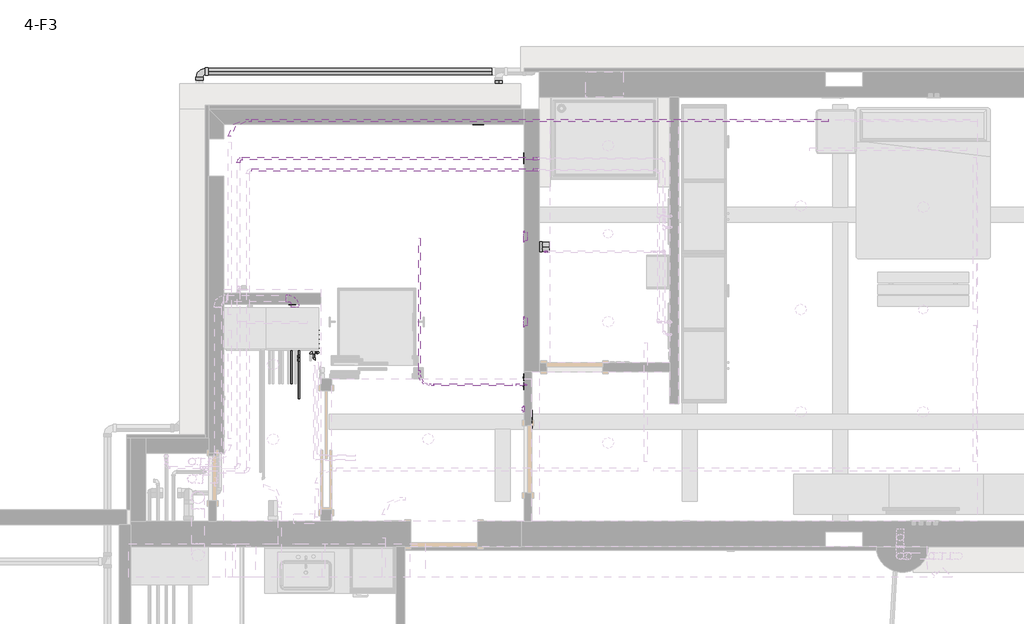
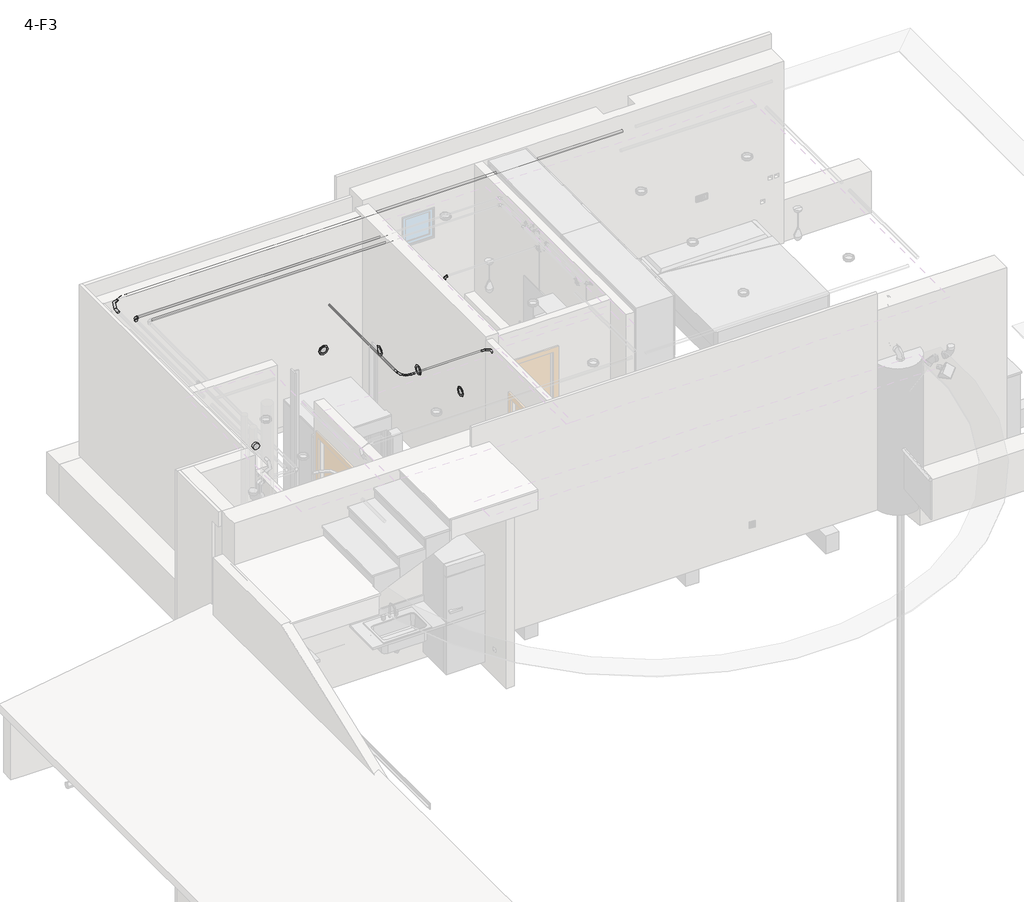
# One storey, part 9 of 11: 27 pipe fittings, 20 pipe segments, 5 switching devices, 4 cable carrier segments, 4 light fixtures, 3 cable carrier fittings, 2 proxies.
"""IFC4 building model written with IfcOpenShell, lengths in millimetres."""

from ifc_helpers import new_model, si_unit, point, frame, frame_2d, origin, place, context, project, spatial, circle_curve, trimmed, segment, composite_curve, outline, extrude, transform, mapped, element, save
from components import mechanical_equipment_c57d0791, wall_mounted_socket_ups_wall_mounted_socket_ups_4524048d, m_conduit_elbow_steel_standard_79cfaf55, m_conduit_elbow_steel_standard_5c2c710b, m_conduit_elbow_steel_standard_af66ae09, m_recessed_lamp_round_led_e6f06c98, m_recessed_lamp_round_led_ae0475c0, m_bend_pvc_sch_40_dwv_standard_1fb0f857, m_bend_pvc_sch_40_dwv_standard_a4b99d37, m_bend_pvc_sch_40_dwv_standard_b153bf5a, m_bend_pvc_sch_40_dwv_standard_42e46e6b, m_bend_pvc_sch_40_dwv_standard_f9b5f7f8, m_bend_pvc_sch_40_dwv_standard_450cce6e, m_elbow_welded_generic_standard_d2a14586, m_elbow_welded_generic_standard_c3fc6815, m_elbow_welded_generic_standard_7d9b37db, m_elbow_welded_generic_standard_439a4a1b, m_elbow_welded_generic_standard_505a3430, m_tee_reducing_sanitary_pvc_sch_40_dwv_standard_0d22577e, switching_device_8f59fbb7, switching_device_ab05ab5c

model = new_model("IFC4")

# Units and contexts
model_context = context("Model", 3, world=origin())
ifc_project = project(units=[si_unit("LENGTHUNIT", "METRE", prefix="MILLI")], contexts=[model_context])

# Site, building, storey
site = spatial("IfcSite", under=ifc_project)
building = spatial("IfcBuilding", under=site)
storey = spatial("IfcBuildingStorey", under=building, Name="4-F3", Elevation=9900.0)

# Proxies
placement = place(None, origin())
mechanical_equipment_shape = mechanical_equipment_c57d0791(model_context)
element("IfcBuildingElementProxy", 1, Name="HC_Control Unit_MEPcontent_ABB_ClimaEco Sensors_HVAC-control element_INT-EN : SAF-A1.0.1-24", ObjectType="HC_Control Unit_MEPcontent_ABB_ClimaEco Sensors_HVAC-control element_INT-EN : SAF-A1.0.1-24", at=placement, inside=storey, context=model_context, shape_type="MappedRepresentation", body=[
    mapped(mechanical_equipment_shape, transform((-827.4765921, 4679.8354313, 11500.0), x_axis=(0.0, -1.0, 0.0), y_axis=(0.0, 0.0, 1.0), z_axis=(-1.0, 0.0, 0.0))),
])
wall_mounted_socket_ups_wall_mounted_socket_ups_shape = wall_mounted_socket_ups_wall_mounted_socket_ups_4524048d(model_context)
element("IfcBuildingElementProxy", 2, Name="WALL MOUNTED SOCKET : WALL MOUNTED SOCKET", ObjectType="WALL MOUNTED SOCKET : WALL MOUNTED SOCKET", at=placement, inside=storey, context=model_context, shape_type="MappedRepresentation", body=[
    mapped(wall_mounted_socket_ups_wall_mounted_socket_ups_shape, transform((-3937.4765921, 6084.4560655, 10350.0), x_axis=(1.0, 0.0, 0.0), y_axis=(0.0, 0.0, 1.0), z_axis=(0.0, -1.0, 0.0))),
])

# Cable carrier fittings
m_conduit_elbow_steel_standard_shape = m_conduit_elbow_steel_standard_79cfaf55(model_context)
element("IfcCableCarrierFitting", 3, ObjectType="M_Conduit Elbow - Steel : Standard", at=placement, inside=storey, context=model_context, shape_type="MappedRepresentation", body=[
    mapped(m_conduit_elbow_steel_standard_shape, transform((-4777.4765921, 8549.2572999, 12880.825), x_axis=(-1.0, 0.0, 0.0), y_axis=(0.0, -1.0, 0.0), z_axis=(0.0, 0.0, 1.0))),
])
m_conduit_elbow_steel_standard_2_shape = m_conduit_elbow_steel_standard_5c2c710b(model_context)
element("IfcCableCarrierFitting", 4, ObjectType="M_Conduit Elbow - Steel : Standard", at=placement, inside=storey, context=model_context, shape_type="MappedRepresentation", body=[
    mapped(m_conduit_elbow_steel_standard_2_shape, transform((-802.4765921, 5004.4560655, 12888.29), x_axis=(0.0, 0.0, 1.0), y_axis=(-0.9999999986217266, -5.250282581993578e-05, 0.0), z_axis=(5.250282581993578e-05, -0.9999999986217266, 0.0))),
])
m_conduit_elbow_steel_standard_3_shape = m_conduit_elbow_steel_standard_af66ae09(model_context)
element("IfcCableCarrierFitting", 5, ObjectType="M_Conduit Elbow - Steel : Standard", at=placement, inside=storey, context=model_context, shape_type="MappedRepresentation", body=[
    mapped(m_conduit_elbow_steel_standard_3_shape, transform((-2232.4849991, 5004.3699604, 12888.29), x_axis=(-3.90051693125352e-06, -0.9999999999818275, -4.5968376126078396e-06), y_axis=(0.9999999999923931, -3.900516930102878e-06, -2.592770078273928e-10), z_axis=(2.413469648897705e-10, -4.596837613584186e-06, 0.9999999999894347))),
])

# Cable carrier segments
element("IfcCableCarrierSegment", 6, ObjectType="Low Current", at=placement, inside=storey, context=model_context, shape_type="SweptSolid", body=[
    extrude(outline(composite_curve([segment(trimmed(circle_curve(frame_2d((8549.2572999, 12880.825)), 19.175), [point((8568.4322999, 12880.825))], [point((8549.2572999, 12861.65))], False, "CARTESIAN"), True, "CONTINUOUS"), segment(trimmed(circle_curve(frame_2d((8549.2572999, 12880.825)), 19.175), [point((8549.2572999, 12861.65))], [point((8530.0822999, 12880.825))], False, "CARTESIAN"), True, "CONTINUOUS"), segment(trimmed(circle_curve(frame_2d((8549.2572999, 12880.825)), 19.175), [point((8530.0822999, 12880.825))], [point((8549.2572999, 12900.0))], False, "CARTESIAN"), True, "CONTINUOUS"), segment(trimmed(circle_curve(frame_2d((8549.2572999, 12880.825)), 19.175), [point((8549.2572999, 12900.0))], [point((8568.4322999, 12880.825))], False, "CARTESIAN"), True, "CONTINUOUS")], self_intersect=False)), frame((-4488.5515921, 0.0, 0.0), z_axis=(1.0, 0.0, 0.0), x_axis=(0.0, 1.0, 0.0)), (0.0, 0.0, 1.0), 7741.2520411),
])
element("IfcCableCarrierSegment", 7, ObjectType="Low Current", at=placement, inside=storey, context=model_context, shape_type="SweptSolid", body=[
    extrude(outline(composite_curve([segment(trimmed(circle_curve(frame_2d((0.0, -11.71)), 11.71), [point((-11.71, -11.71))], [point((0.0, 0.0))], False, "CARTESIAN"), True, "CONTINUOUS"), segment(trimmed(circle_curve(frame_2d((0.0, -11.71)), 11.71), [point((0.0, 0.0))], [point((11.71, -11.71))], False, "CARTESIAN"), True, "CONTINUOUS"), segment(trimmed(circle_curve(frame_2d((0.0, -11.71)), 11.71), [point((11.71, -11.71))], [point((0.0, -23.42))], False, "CARTESIAN"), True, "CONTINUOUS"), segment(trimmed(circle_curve(frame_2d((0.0, -11.71)), 11.71), [point((0.0, -23.42))], [point((-11.71, -11.71))], False, "CARTESIAN"), True, "CONTINUOUS")], self_intersect=False)), frame((-2043.5650673, 5004.3798792, 12876.58), z_axis=(0.9999999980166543, 6.298167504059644e-05, 0.0), x_axis=(6.298167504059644e-05, -0.9999999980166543, 0.0)), (0.0, 0.0, 1.0), 1052.1759775),
])
element("IfcCableCarrierSegment", 8, ObjectType="Low Current", at=placement, inside=storey, context=model_context, shape_type="SweptSolid", body=[
    extrude(outline(composite_curve([segment(trimmed(circle_curve(frame_2d((0.0, -11.71)), 11.71), [point((0.0, 0.0))], [point((11.71, -11.71))], False, "CARTESIAN"), True, "CONTINUOUS"), segment(trimmed(circle_curve(frame_2d((0.0, -11.71)), 11.71), [point((11.71, -11.71))], [point((0.0, -23.42))], False, "CARTESIAN"), True, "CONTINUOUS"), segment(trimmed(circle_curve(frame_2d((0.0, -11.71)), 11.71), [point((0.0, -23.42))], [point((-11.71, -11.71))], False, "CARTESIAN"), True, "CONTINUOUS"), segment(trimmed(circle_curve(frame_2d((0.0, -11.71)), 11.71), [point((-11.71, -11.71))], [point((0.0, 0.0))], False, "CARTESIAN"), True, "CONTINUOUS")], self_intersect=False)), frame((-2244.1942622, 5193.2899381, 12888.2908684), z_axis=(3.900516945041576e-06, 0.9999999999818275, 4.59683761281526e-06), x_axis=(1.7929657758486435e-11, 4.596837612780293e-06, -0.9999999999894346)), (0.0, 0.0, 1.0), 1777.4970577),
])
element("IfcCableCarrierSegment", 9, ObjectType="Low Current", at=placement, inside=storey, context=model_context, shape_type="SweptSolid", body=[
    extrude(outline(composite_curve([segment(trimmed(circle_curve(frame_2d((-802.4765921, 5004.4560655)), 11.71), [point((-790.7665921, 5004.4560655))], [point((-802.4765921, 4992.7460655))], False, "CARTESIAN"), True, "CONTINUOUS"), segment(trimmed(circle_curve(frame_2d((-802.4765921, 5004.4560655)), 11.71), [point((-802.4765921, 4992.7460655))], [point((-814.1865921, 5004.4560655))], False, "CARTESIAN"), True, "CONTINUOUS"), segment(trimmed(circle_curve(frame_2d((-802.4765921, 5004.4560655)), 11.71), [point((-814.1865921, 5004.4560655))], [point((-802.4765921, 5016.1660655))], False, "CARTESIAN"), True, "CONTINUOUS"), segment(trimmed(circle_curve(frame_2d((-802.4765921, 5004.4560655)), 11.71), [point((-802.4765921, 5016.1660655))], [point((-790.7665921, 5004.4560655))], False, "CARTESIAN"), True, "CONTINUOUS")], self_intersect=False)), frame((0.0, 0.0, 11484.5), z_axis=(0.0, 0.0, 1.0), x_axis=(1.0, 0.0, 0.0)), (0.0, 0.0, 1.0), 1214.8775),
])

# Light fixtures
m_recessed_lamp_round_led_shape = m_recessed_lamp_round_led_e6f06c98(model_context)
element("IfcLightFixture", 10, ObjectType="M_Recessed Lamp - Round - LED : 100mm Trimless Downlight", at=placement, inside=storey, context=model_context, shape_type="MappedRepresentation", body=[
    mapped(m_recessed_lamp_round_led_shape, transform((-827.4765921, 6993.0590764, 11314.7368421), x_axis=(0.0, -1.0, 0.0), y_axis=(0.0, 0.0, 1.0), z_axis=(-1.0, 0.0, 0.0))),
])
element("IfcLightFixture", 11, ObjectType="M_Recessed Lamp - Round - LED : 100mm Trimless Downlight", at=placement, inside=storey, context=model_context, shape_type="MappedRepresentation", body=[
    mapped(m_recessed_lamp_round_led_shape, transform((-827.4765921, 5850.6530281, 11650.0), x_axis=(0.0, -1.0, 0.0), y_axis=(0.0, 0.0, 1.0), z_axis=(-1.0, 0.0, 0.0))),
])
element("IfcLightFixture", 12, ObjectType="M_Recessed Lamp - Round - LED : 100mm Trimless Downlight", at=placement, inside=storey, context=model_context, shape_type="MappedRepresentation", body=[
    mapped(m_recessed_lamp_round_led_shape, transform((-1442.4765921, 8501.6620874, 10944.7368421), x_axis=(1.0, 0.0, 0.0), y_axis=(0.0, 0.0, 1.0), z_axis=(0.0, -1.0, 0.0))),
])
m_recessed_lamp_round_led_2_shape = m_recessed_lamp_round_led_ae0475c0(model_context)
element("IfcLightFixture", 13, ObjectType="M_Recessed Lamp - Round - LED : 100mm Trimless Downlight", at=placement, inside=storey, context=model_context, shape_type="MappedRepresentation", body=[
    mapped(m_recessed_lamp_round_led_2_shape, transform((-827.4765921, 8043.0590764, 10994.7368421), x_axis=(0.0, 1.0, 0.0), y_axis=(0.0, 0.0, -1.0), z_axis=(-1.0, 0.0, 0.0))),
])

# Pipe fittings
m_bend_pvc_sch_40_dwv_standard_shape = m_bend_pvc_sch_40_dwv_standard_1fb0f857(model_context)
element("IfcPipeFitting", 14, ObjectType="M_Bend - PVC - Sch 40 - DWV : Standard", at=placement, inside=storey, context=model_context, shape_type="MappedRepresentation", body=[
    mapped(m_bend_pvc_sch_40_dwv_standard_shape, transform((-727.4765924, 6855.7284405, 10168.9942547), x_axis=(0.0, -1.0, 0.0), y_axis=(0.9999999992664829, 0.0, -3.830188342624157e-05), z_axis=(3.830188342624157e-05, 0.0, 0.9999999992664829))),
])
m_bend_pvc_sch_40_dwv_standard_2_shape = m_bend_pvc_sch_40_dwv_standard_a4b99d37(model_context)
element("IfcPipeFitting", 15, ObjectType="M_Bend - PVC - Sch 40 - DWV : Standard", at=placement, inside=storey, context=model_context, shape_type="MappedRepresentation", body=[
    mapped(m_bend_pvc_sch_40_dwv_standard_2_shape, transform((-5186.0805492, 9205.4040503, 9903.4212629), x_axis=(-0.9999999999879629, 0.0, 4.906551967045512e-06), y_axis=(0.0, -1.0, 0.0), z_axis=(4.906551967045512e-06, 0.0, 0.9999999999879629))),
])
element("IfcPipeFitting", 16, ObjectType="M_Bend - PVC - Sch 40 - DWV : Standard", at=placement, inside=storey, context=model_context, shape_type="MappedRepresentation", body=[
    mapped(m_bend_pvc_sch_40_dwv_standard_2_shape, transform((-3905.4974808, 6159.4560655, 11700.0), x_axis=(0.0, 1.0, 0.0), y_axis=(-1.0, 0.0, 0.0), z_axis=(0.0, 0.0, 1.0))),
])
m_bend_pvc_sch_40_dwv_standard_3_shape = m_bend_pvc_sch_40_dwv_standard_b153bf5a(model_context)
element("IfcPipeFitting", 17, ObjectType="M_Bend - PVC - Sch 40 - DWV : Standard", at=placement, inside=storey, context=model_context, shape_type="MappedRepresentation", body=[
    mapped(m_bend_pvc_sch_40_dwv_standard_3_shape, transform((-4660.1213464, 8036.6620874, 12870.0), x_axis=(-1.0, 0.0, 0.0), y_axis=(0.0, -1.0, 0.0), z_axis=(0.0, 0.0, 1.0))),
])
m_bend_pvc_sch_40_dwv_standard_4_shape = m_bend_pvc_sch_40_dwv_standard_42e46e6b(model_context)
element("IfcPipeFitting", 18, ObjectType="M_Bend - PVC - Sch 40 - DWV : Standard", at=placement, inside=storey, context=model_context, shape_type="MappedRepresentation", body=[
    mapped(m_bend_pvc_sch_40_dwv_standard_4_shape, transform((-542.4765921, 6788.3845932, 11400.0), x_axis=(0.0, 0.0, -1.0), y_axis=(1.0, 0.0, 0.0), z_axis=(0.0, -1.0, 0.0))),
])
element("IfcPipeFitting", 19, ObjectType="M_Bend - PVC - Sch 40 - DWV : Standard", at=placement, inside=storey, context=model_context, shape_type="MappedRepresentation", body=[
    mapped(m_bend_pvc_sch_40_dwv_standard_4_shape, transform((-542.4765921, 6788.3845932, 12870.0), x_axis=(0.0, 0.0, 1.0), y_axis=(1.0, 0.0, 0.0), z_axis=(0.0, 1.0, 0.0))),
])
m_bend_pvc_sch_40_dwv_standard_5_shape = m_bend_pvc_sch_40_dwv_standard_f9b5f7f8(model_context)
element("IfcPipeFitting", 20, ObjectType="M_Bend - PVC - Sch 40 - DWV : Standard", at=placement, inside=storey, context=model_context, shape_type="MappedRepresentation", body=[
    mapped(m_bend_pvc_sch_40_dwv_standard_5_shape, transform((-559.7171152, 8612.6670549, 9887.5), x_axis=(0.0, -1.0, 0.0), y_axis=(1.0, 0.0, 0.0), z_axis=(0.0, 0.0, 1.0))),
])
m_bend_pvc_sch_40_dwv_standard_6_shape = m_bend_pvc_sch_40_dwv_standard_450cce6e(model_context)
element("IfcPipeFitting", 21, ObjectType="M_Bend - PVC - Sch 40 - DWV : Standard", at=placement, inside=storey, context=model_context, shape_type="MappedRepresentation", body=[
    mapped(m_bend_pvc_sch_40_dwv_standard_6_shape, transform((-727.4765921, 7888.3845932, 10169.0), x_axis=(-0.7071067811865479, -0.7071067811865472, 0.0), y_axis=(0.7071067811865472, -0.7071067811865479, 0.0), z_axis=(0.0, 0.0, 1.0))),
])
element("IfcPipeFitting", 22, ObjectType="M_Bend - PVC - Sch 40 - DWV : Standard", at=placement, inside=storey, context=model_context, shape_type="MappedRepresentation", body=[
    mapped(m_bend_pvc_sch_40_dwv_standard_6_shape, transform((-559.7171152, 8056.1440701, 10169.0), x_axis=(0.7071067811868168, 0.7071067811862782, 0.0), y_axis=(-0.7071067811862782, 0.7071067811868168, 0.0), z_axis=(0.0, 0.0, 1.0))),
])
m_elbow_welded_generic_standard_shape = m_elbow_welded_generic_standard_d2a14586(model_context)
element("IfcPipeFitting", 23, ObjectType="M_Elbow - Welded - Generic : Standard", at=placement, inside=storey, context=model_context, shape_type="MappedRepresentation", body=[
    mapped(m_elbow_welded_generic_standard_shape, transform((-3893.7873274, 5495.4611712, 9540.000026), x_axis=(-1.0, 0.0, 0.0), y_axis=(0.0, -0.9999999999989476, -1.4508066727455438e-06), z_axis=(0.0, -1.4508066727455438e-06, 0.9999999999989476))),
])
m_elbow_welded_generic_standard_2_shape = m_elbow_welded_generic_standard_c3fc6815(model_context)
element("IfcPipeFitting", 24, ObjectType="M_Elbow - Welded - Generic : Standard", at=placement, inside=storey, context=model_context, shape_type="MappedRepresentation", body=[
    mapped(m_elbow_welded_generic_standard_2_shape, transform((-3594.9732649, 5435.4613499, 11000.0001203), x_axis=(1.0, 0.0, 0.0), y_axis=(0.0, -9.99049300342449e-08, 0.9999999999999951), z_axis=(0.0, -0.9999999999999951, -9.99049300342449e-08))),
])
element("IfcPipeFitting", 25, ObjectType="M_Elbow - Welded - Generic : Standard", at=placement, inside=storey, context=model_context, shape_type="MappedRepresentation", body=[
    mapped(m_elbow_welded_generic_standard_2_shape, transform((-3594.9732649, 5495.4611712, 9500.0001015), x_axis=(1.0, 0.0, 0.0), y_axis=(0.0, 0.0, 1.0), z_axis=(0.0, -1.0, 0.0))),
])
element("IfcPipeFitting", 26, ObjectType="M_Elbow - Welded - Generic : Standard", at=placement, inside=storey, context=model_context, shape_type="MappedRepresentation", body=[
    mapped(m_elbow_welded_generic_standard_2_shape, transform((-3594.9732649, 5555.4611712, 9500.0001048), x_axis=(1.0, 0.0, 0.0), y_axis=(0.0, 0.0, 1.0), z_axis=(0.0, -1.0, 0.0))),
])
element("IfcPipeFitting", 27, ObjectType="M_Elbow - Welded - Generic : Standard", at=placement, inside=storey, context=model_context, shape_type="MappedRepresentation", body=[
    mapped(m_elbow_welded_generic_standard_2_shape, transform((-3594.9732649, 5615.4611712, 9500.000112), x_axis=(1.0, 0.0, 0.0), y_axis=(0.0, 0.0, 1.0), z_axis=(0.0, -1.0, 0.0))),
])
element("IfcPipeFitting", 28, ObjectType="M_Elbow - Welded - Generic : Standard", at=placement, inside=storey, context=model_context, shape_type="MappedRepresentation", body=[
    mapped(m_elbow_welded_generic_standard_2_shape, transform((-3594.9732649, 5675.4611712, 9500.000112), x_axis=(1.0, 0.0, 0.0), y_axis=(0.0, 0.0, 1.0), z_axis=(0.0, -1.0, 0.0))),
])
element("IfcPipeFitting", 29, ObjectType="M_Elbow - Welded - Generic : Standard", at=placement, inside=storey, context=model_context, shape_type="MappedRepresentation", body=[
    mapped(m_elbow_welded_generic_standard_2_shape, transform((-3594.9732649, 5735.4611712, 9500.0000738), x_axis=(1.0, 0.0, 0.0), y_axis=(0.0, 0.0, 1.0), z_axis=(0.0, -1.0, 0.0))),
])
element("IfcPipeFitting", 30, ObjectType="M_Elbow - Welded - Generic : Standard", at=placement, inside=storey, context=model_context, shape_type="MappedRepresentation", body=[
    mapped(m_elbow_welded_generic_standard_2_shape, transform((-3950.8446087, 5555.4611712, 9500.0001048), x_axis=(-1.0, 0.0, 0.0), y_axis=(0.0, -0.9999999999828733, -5.852660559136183e-06), z_axis=(0.0, -5.852660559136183e-06, 0.9999999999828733))),
])
element("IfcPipeFitting", 31, ObjectType="M_Elbow - Welded - Generic : Standard", at=placement, inside=storey, context=model_context, shape_type="MappedRepresentation", body=[
    mapped(m_elbow_welded_generic_standard_2_shape, transform((-3850.8446087, 5495.4611712, 9500.0001015), x_axis=(-1.0, 0.0, 0.0), y_axis=(0.0, -0.9999999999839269, -5.669764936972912e-06), z_axis=(0.0, -5.669764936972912e-06, 0.9999999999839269))),
])
element("IfcPipeFitting", 32, ObjectType="M_Elbow - Welded - Generic : Standard", at=placement, inside=storey, context=model_context, shape_type="MappedRepresentation", body=[
    mapped(m_elbow_welded_generic_standard_2_shape, transform((-3646.9732649, 5435.4613499, 11000.0001203), x_axis=(-1.0, 0.0, 0.0), y_axis=(0.0, -0.9999999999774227, -6.7197214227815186e-06), z_axis=(0.0, -6.7197214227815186e-06, 0.9999999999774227))),
])
element("IfcPipeFitting", 33, ObjectType="M_Elbow - Welded - Generic : Standard", at=placement, inside=storey, context=model_context, shape_type="MappedRepresentation", body=[
    mapped(m_elbow_welded_generic_standard_2_shape, transform((-3646.9732649, 5350.8712523, 10999.9992996), x_axis=(0.0, -0.9999999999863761, -5.219941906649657e-06), y_axis=(0.9999999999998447, 2.9097433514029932e-12, -5.574283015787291e-07), z_axis=(5.574283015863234e-07, -5.219941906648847e-06, 0.9999999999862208))),
])
element("IfcPipeFitting", 34, ObjectType="M_Elbow - Welded - Generic : Standard", at=placement, inside=storey, context=model_context, shape_type="MappedRepresentation", body=[
    mapped(m_elbow_welded_generic_standard_2_shape, transform((-3692.4765921, 5435.4613499, 11050.0000278), x_axis=(-1.0, 0.0, 0.0), y_axis=(0.0, -0.9999999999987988, -1.5499813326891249e-06), z_axis=(0.0, -1.5499813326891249e-06, 0.9999999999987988))),
])
m_elbow_welded_generic_standard_3_shape = m_elbow_welded_generic_standard_7d9b37db(model_context)
element("IfcPipeFitting", 35, ObjectType="M_Elbow - Welded - Generic : Standard", at=placement, inside=storey, context=model_context, shape_type="MappedRepresentation", body=[
    mapped(m_elbow_welded_generic_standard_3_shape, transform((-3950.8446087, 5605.4611712, 9540.0), x_axis=(0.0, -0.7071067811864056, 0.7071067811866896), y_axis=(0.0, -0.7071067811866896, -0.7071067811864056), z_axis=(1.0, 0.0, 0.0))),
])
element("IfcPipeFitting", 36, ObjectType="M_Elbow - Welded - Generic : Standard", at=placement, inside=storey, context=model_context, shape_type="MappedRepresentation", body=[
    mapped(m_elbow_welded_generic_standard_3_shape, transform((-3850.8446087, 5340.4611712, 9540.0), x_axis=(0.0, -0.7071067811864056, 0.7071067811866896), y_axis=(0.0, -0.7071067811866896, -0.7071067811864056), z_axis=(1.0, 0.0, 0.0))),
])
m_elbow_welded_generic_standard_4_shape = m_elbow_welded_generic_standard_439a4a1b(model_context)
element("IfcPipeFitting", 37, ObjectType="M_Elbow - Welded - Generic : Standard", at=placement, inside=storey, context=model_context, shape_type="MappedRepresentation", body=[
    mapped(m_elbow_welded_generic_standard_4_shape, transform((-3950.8446087, 5645.4617102, 9499.999461), x_axis=(0.0, -0.9999999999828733, -5.85266054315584e-06), y_axis=(0.0, -5.85266054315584e-06, 0.9999999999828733), z_axis=(-1.0, 0.0, 0.0))),
])
m_elbow_welded_generic_standard_5_shape = m_elbow_welded_generic_standard_505a3430(model_context)
element("IfcPipeFitting", 38, ObjectType="M_Elbow - Welded - Generic : Standard", at=placement, inside=storey, context=model_context, shape_type="MappedRepresentation", body=[
    mapped(m_elbow_welded_generic_standard_5_shape, transform((-3850.8446087, 5380.4617217, 9499.9994495), x_axis=(0.0, -0.9999999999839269, -5.669764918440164e-06), y_axis=(0.0, -5.669764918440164e-06, 0.9999999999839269), z_axis=(-1.0, 0.0, 0.0))),
])
m_tee_reducing_sanitary_pvc_sch_40_dwv_standard_shape = m_tee_reducing_sanitary_pvc_sch_40_dwv_standard_0d22577e(model_context)
element("IfcPipeFitting", 39, ObjectType="M_Tee Reducing Sanitary - PVC - Sch 40 - DWV : Standard", at=placement, inside=storey, context=model_context, shape_type="MappedRepresentation", body=[
    mapped(m_tee_reducing_sanitary_pvc_sch_40_dwv_standard_shape, transform((-662.4765921, 7886.6620874, 12870.0), x_axis=(1.0, 0.0, 0.0), y_axis=(0.0, 0.0, 1.0), z_axis=(0.0, -1.0, 0.0))),
])
element("IfcPipeFitting", 40, ObjectType="M_Tee Reducing Sanitary - PVC - Sch 40 - DWV : Standard", at=placement, inside=storey, context=model_context, shape_type="MappedRepresentation", body=[
    mapped(m_tee_reducing_sanitary_pvc_sch_40_dwv_standard_shape, transform((-662.4765921, 8036.6620874, 12870.0), x_axis=(1.0, 0.0, 0.0), y_axis=(0.0, 0.0, 1.0), z_axis=(0.0, -1.0, 0.0))),
])

# Pipe segments
element("IfcPipeSegment", 41, ObjectType="PVC - DWV", at=placement, inside=storey, context=model_context, shape_type="SweptSolid", body=[
    extrude(outline(composite_curve([segment(trimmed(circle_curve(frame_2d((7886.6620874, 12870.0)), 16.7005), [point((7869.9615874, 12870.0))], [point((7886.6620874, 12886.7005))], False, "CARTESIAN"), True, "CONTINUOUS"), segment(trimmed(circle_curve(frame_2d((7886.6620874, 12870.0)), 16.7005), [point((7886.6620874, 12886.7005))], [point((7903.3625874, 12870.0))], False, "CARTESIAN"), True, "CONTINUOUS"), segment(trimmed(circle_curve(frame_2d((7886.6620874, 12870.0)), 16.7005), [point((7903.3625874, 12870.0))], [point((7886.6620874, 12853.2995))], False, "CARTESIAN"), True, "CONTINUOUS"), segment(trimmed(circle_curve(frame_2d((7886.6620874, 12870.0)), 16.7005), [point((7886.6620874, 12853.2995))], [point((7869.9615874, 12870.0))], False, "CARTESIAN"), True, "CONTINUOUS")], self_intersect=False)), frame((-4480.362945, 0.0, 0.0), z_axis=(1.0, 0.0, 0.0), x_axis=(0.0, 1.0, 0.0)), (0.0, 0.0, 1.0), 3770.4356341),
])
element("IfcPipeSegment", 42, ObjectType="PVC - DWV", at=placement, inside=storey, context=model_context, shape_type="SweptSolid", body=[
    extrude(outline(composite_curve([segment(trimmed(circle_curve(frame_2d((8036.6620874, 12870.0)), 16.7005), [point((8019.9615874, 12870.0))], [point((8036.6620874, 12886.7005))], False, "CARTESIAN"), True, "CONTINUOUS"), segment(trimmed(circle_curve(frame_2d((8036.6620874, 12870.0)), 16.7005), [point((8036.6620874, 12886.7005))], [point((8053.3625874, 12870.0))], False, "CARTESIAN"), True, "CONTINUOUS"), segment(trimmed(circle_curve(frame_2d((8036.6620874, 12870.0)), 16.7005), [point((8053.3625874, 12870.0))], [point((8036.6620874, 12853.2995))], False, "CARTESIAN"), True, "CONTINUOUS"), segment(trimmed(circle_curve(frame_2d((8036.6620874, 12870.0)), 16.7005), [point((8036.6620874, 12853.2995))], [point((8019.9615874, 12870.0))], False, "CARTESIAN"), True, "CONTINUOUS")], self_intersect=False)), frame((-4607.5072839, 0.0, 0.0), z_axis=(1.0, 0.0, 0.0), x_axis=(0.0, 1.0, 0.0)), (0.0, 0.0, 1.0), 3897.579973),
])
element("IfcPipeSegment", 43, ObjectType="PVC - DWV", at=placement, inside=storey, context=model_context, shape_type="SweptSolid", body=[
    extrude(outline(composite_curve([segment(trimmed(circle_curve(frame_2d((-542.4765921, 6788.3845932)), 10.668), [point((-531.8085921, 6788.3845932))], [point((-542.4765921, 6777.7165932))], False, "CARTESIAN"), True, "CONTINUOUS"), segment(trimmed(circle_curve(frame_2d((-542.4765921, 6788.3845932)), 10.668), [point((-542.4765921, 6777.7165932))], [point((-553.1445921, 6788.3845932))], False, "CARTESIAN"), True, "CONTINUOUS"), segment(trimmed(circle_curve(frame_2d((-542.4765921, 6788.3845932)), 10.668), [point((-553.1445921, 6788.3845932))], [point((-542.4765921, 6799.0525932))], False, "CARTESIAN"), True, "CONTINUOUS"), segment(trimmed(circle_curve(frame_2d((-542.4765921, 6788.3845932)), 10.668), [point((-542.4765921, 6799.0525932))], [point((-531.8085921, 6788.3845932))], False, "CARTESIAN"), True, "CONTINUOUS")], self_intersect=False)), frame((0.0, 0.0, 11441.0140625), z_axis=(0.0, 0.0, 1.0), x_axis=(1.0, 0.0, 0.0)), (0.0, 0.0, 1.0), 1387.971875),
])
element("IfcPipeSegment", 44, ObjectType="PVC - DWV", at=placement, inside=storey, context=model_context, shape_type="SweptSolid", body=[
    extrude(outline(composite_curve([segment(trimmed(circle_curve(frame_2d((5495.4611712, 9500.0001015)), 9.55), [point((5505.0111712, 9500.0001015))], [point((5495.4611712, 9490.4501015))], False, "CARTESIAN"), True, "CONTINUOUS"), segment(trimmed(circle_curve(frame_2d((5495.4611712, 9500.0001015)), 9.55), [point((5495.4611712, 9490.4501015))], [point((5485.9111712, 9500.0001015))], False, "CARTESIAN"), True, "CONTINUOUS"), segment(trimmed(circle_curve(frame_2d((5495.4611712, 9500.0001015)), 9.55), [point((5485.9111712, 9500.0001015))], [point((5495.4611712, 9509.5501015))], False, "CARTESIAN"), True, "CONTINUOUS"), segment(trimmed(circle_curve(frame_2d((5495.4611712, 9500.0001015)), 9.55), [point((5495.4611712, 9509.5501015))], [point((5505.0111712, 9500.0001015))], False, "CARTESIAN"), True, "CONTINUOUS")], self_intersect=False)), frame((-3832.9356243, 0.0, 0.0), z_axis=(1.0, 0.0, 0.0), x_axis=(0.0, 1.0, 0.0)), (0.0, 0.0, 1.0), 220.053375),
])
element("IfcPipeSegment", 45, ObjectType="PVC - DWV", at=placement, inside=storey, context=model_context, shape_type="SweptSolid", body=[
    extrude(outline(composite_curve([segment(trimmed(circle_curve(frame_2d((5435.4613499, 11000.0001203)), 9.55), [point((5445.0113499, 11000.0001203))], [point((5435.4613499, 10990.4501203))], False, "CARTESIAN"), True, "CONTINUOUS"), segment(trimmed(circle_curve(frame_2d((5435.4613499, 11000.0001203)), 9.55), [point((5435.4613499, 10990.4501203))], [point((5425.9113499, 11000.0001203))], False, "CARTESIAN"), True, "CONTINUOUS"), segment(trimmed(circle_curve(frame_2d((5435.4613499, 11000.0001203)), 9.55), [point((5425.9113499, 11000.0001203))], [point((5435.4613499, 11009.5501203))], False, "CARTESIAN"), True, "CONTINUOUS"), segment(trimmed(circle_curve(frame_2d((5435.4613499, 11000.0001203)), 9.55), [point((5435.4613499, 11009.5501203))], [point((5445.0113499, 11000.0001203))], False, "CARTESIAN"), True, "CONTINUOUS")], self_intersect=False)), frame((-3629.0642806, 0.0, 0.0), z_axis=(1.0, 0.0, 0.0), x_axis=(0.0, 1.0, 0.0)), (0.0, 0.0, 1.0), 16.1820313),
])
element("IfcPipeSegment", 46, ObjectType="PVC - DWV", at=placement, inside=storey, context=model_context, shape_type="SweptSolid", body=[
    extrude(outline(composite_curve([segment(trimmed(circle_curve(frame_2d((9500.0, -3950.8446087)), 9.55), [point((9500.0, -3941.2946087))], [point((9509.55, -3950.8446087))], False, "CARTESIAN"), True, "CONTINUOUS"), segment(trimmed(circle_curve(frame_2d((9500.0, -3950.8446087)), 9.55), [point((9509.55, -3950.8446087))], [point((9500.0, -3960.3946087))], False, "CARTESIAN"), True, "CONTINUOUS"), segment(trimmed(circle_curve(frame_2d((9500.0, -3950.8446087)), 9.55), [point((9500.0, -3960.3946087))], [point((9490.45, -3950.8446087))], False, "CARTESIAN"), True, "CONTINUOUS"), segment(trimmed(circle_curve(frame_2d((9500.0, -3950.8446087)), 9.55), [point((9490.45, -3950.8446087))], [point((9500.0, -3941.2946087))], False, "CARTESIAN"), True, "CONTINUOUS")], self_intersect=False)), frame((0.0, 5537.5521868, 0.0), z_axis=(0.0, 1.0, 0.0), x_axis=(0.0, 0.0, 1.0)), (0.0, 0.0, 1.0), 125.8012421),
])
element("IfcPipeSegment", 47, ObjectType="PVC - DWV", at=placement, inside=storey, context=model_context, shape_type="SweptSolid", body=[
    extrude(outline(composite_curve([segment(trimmed(circle_curve(frame_2d((9500.0, -3850.8446087)), 9.55), [point((9500.0, -3860.3946087))], [point((9490.45, -3850.8446087))], False, "CARTESIAN"), True, "CONTINUOUS"), segment(trimmed(circle_curve(frame_2d((9500.0, -3850.8446087)), 9.55), [point((9490.45, -3850.8446087))], [point((9500.0, -3841.2946087))], False, "CARTESIAN"), True, "CONTINUOUS"), segment(trimmed(circle_curve(frame_2d((9500.0, -3850.8446087)), 9.55), [point((9500.0, -3841.2946087))], [point((9509.55, -3850.8446087))], False, "CARTESIAN"), True, "CONTINUOUS"), segment(trimmed(circle_curve(frame_2d((9500.0, -3850.8446087)), 9.55), [point((9509.55, -3850.8446087))], [point((9500.0, -3860.3946087))], False, "CARTESIAN"), True, "CONTINUOUS")], self_intersect=False)), frame((0.0, 5398.3534404, 0.0), z_axis=(0.0, 1.0, 0.0), x_axis=(0.0, 0.0, 1.0)), (0.0, 0.0, 1.0), 79.1987464),
])
element("IfcPipeSegment", 48, ObjectType="PVC - DWV", at=placement, inside=storey, context=model_context, shape_type="SweptSolid", body=[
    extrude(outline(composite_curve([segment(trimmed(circle_curve(frame_2d((9540.0, -3950.8446087)), 9.55), [point((9540.0, -3960.3946087))], [point((9530.45, -3950.8446087))], False, "CARTESIAN"), True, "CONTINUOUS"), segment(trimmed(circle_curve(frame_2d((9540.0, -3950.8446087)), 9.55), [point((9530.45, -3950.8446087))], [point((9540.0, -3941.2946087))], False, "CARTESIAN"), True, "CONTINUOUS"), segment(trimmed(circle_curve(frame_2d((9540.0, -3950.8446087)), 9.55), [point((9540.0, -3941.2946087))], [point((9549.55, -3950.8446087))], False, "CARTESIAN"), True, "CONTINUOUS"), segment(trimmed(circle_curve(frame_2d((9540.0, -3950.8446087)), 9.55), [point((9549.55, -3950.8446087))], [point((9540.0, -3960.3946087))], False, "CARTESIAN"), True, "CONTINUOUS")], self_intersect=False)), frame((0.0, 5019.4611712, 0.0), z_axis=(0.0, 1.0, 0.0), x_axis=(0.0, 0.0, 1.0)), (0.0, 0.0, 1.0), 568.1082812),
])
element("IfcPipeSegment", 49, ObjectType="PVC - DWV", at=placement, inside=storey, context=model_context, shape_type="SweptSolid", body=[
    extrude(outline(composite_curve([segment(trimmed(circle_curve(frame_2d((0.0, 9.55)), 9.55), [point((-9.55, 9.55))], [point((0.0, 19.1))], False, "CARTESIAN"), True, "CONTINUOUS"), segment(trimmed(circle_curve(frame_2d((0.0, 9.55)), 9.55), [point((0.0, 19.1))], [point((9.55, 9.55))], False, "CARTESIAN"), True, "CONTINUOUS"), segment(trimmed(circle_curve(frame_2d((0.0, 9.55)), 9.55), [point((9.55, 9.55))], [point((0.0, 0.0))], False, "CARTESIAN"), True, "CONTINUOUS"), segment(trimmed(circle_curve(frame_2d((0.0, 9.55)), 9.55), [point((0.0, 0.0))], [point((-9.55, 9.55))], False, "CARTESIAN"), True, "CONTINUOUS")], self_intersect=False)), frame((-3950.8446087, 5626.0574848, 9505.8979469), z_axis=(0.0, -0.70710678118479, 0.7071067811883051), x_axis=(1.0, 0.0, 0.0)), (0.0, 0.0, 1.0), 20.7858672),
])
element("IfcPipeSegment", 50, ObjectType="PVC - DWV", at=placement, inside=storey, context=model_context, shape_type="SweptSolid", body=[
    extrude(outline(composite_curve([segment(trimmed(circle_curve(frame_2d((9540.0, -3850.8446087)), 9.55), [point((9540.0, -3860.3946087))], [point((9530.45, -3850.8446087))], False, "CARTESIAN"), True, "CONTINUOUS"), segment(trimmed(circle_curve(frame_2d((9540.0, -3850.8446087)), 9.55), [point((9530.45, -3850.8446087))], [point((9540.0, -3841.2946087))], False, "CARTESIAN"), True, "CONTINUOUS"), segment(trimmed(circle_curve(frame_2d((9540.0, -3850.8446087)), 9.55), [point((9540.0, -3841.2946087))], [point((9549.55, -3850.8446087))], False, "CARTESIAN"), True, "CONTINUOUS"), segment(trimmed(circle_curve(frame_2d((9540.0, -3850.8446087)), 9.55), [point((9549.55, -3850.8446087))], [point((9540.0, -3860.3946087))], False, "CARTESIAN"), True, "CONTINUOUS")], self_intersect=False)), frame((0.0, 4819.4611712, 0.0), z_axis=(0.0, 1.0, 0.0), x_axis=(0.0, 0.0, 1.0)), (0.0, 0.0, 1.0), 503.1082812),
])
element("IfcPipeSegment", 51, ObjectType="PVC - DWV", at=placement, inside=storey, context=model_context, shape_type="SweptSolid", body=[
    extrude(outline(composite_curve([segment(trimmed(circle_curve(frame_2d((0.0, 9.55)), 9.55), [point((-9.55, 9.55))], [point((0.0, 19.1))], False, "CARTESIAN"), True, "CONTINUOUS"), segment(trimmed(circle_curve(frame_2d((0.0, 9.55)), 9.55), [point((0.0, 19.1))], [point((9.55, 9.55))], False, "CARTESIAN"), True, "CONTINUOUS"), segment(trimmed(circle_curve(frame_2d((0.0, 9.55)), 9.55), [point((9.55, 9.55))], [point((0.0, 0.0))], False, "CARTESIAN"), True, "CONTINUOUS"), segment(trimmed(circle_curve(frame_2d((0.0, 9.55)), 9.55), [point((0.0, 0.0))], [point((-9.55, 9.55))], False, "CARTESIAN"), True, "CONTINUOUS")], self_intersect=False)), frame((-3850.8446087, 5361.0574963, 9505.8979354), z_axis=(0.0, -0.7071067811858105, 0.7071067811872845), x_axis=(1.0, 0.0, 0.0)), (0.0, 0.0, 1.0), 20.7858835),
])
element("IfcPipeSegment", 52, ObjectType="PVC - DWV", at=placement, inside=storey, context=model_context, shape_type="SweptSolid", body=[
    extrude(outline(composite_curve([segment(trimmed(circle_curve(frame_2d((11000.0, -3646.9732649)), 9.55), [point((11000.0, -3656.5232649))], [point((10990.45, -3646.9732649))], False, "CARTESIAN"), True, "CONTINUOUS"), segment(trimmed(circle_curve(frame_2d((11000.0, -3646.9732649)), 9.55), [point((10990.45, -3646.9732649))], [point((11000.0, -3637.4232649))], False, "CARTESIAN"), True, "CONTINUOUS"), segment(trimmed(circle_curve(frame_2d((11000.0, -3646.9732649)), 9.55), [point((11000.0, -3637.4232649))], [point((11009.55, -3646.9732649))], False, "CARTESIAN"), True, "CONTINUOUS"), segment(trimmed(circle_curve(frame_2d((11000.0, -3646.9732649)), 9.55), [point((11009.55, -3646.9732649))], [point((11000.0, -3656.5232649))], False, "CARTESIAN"), True, "CONTINUOUS")], self_intersect=False)), frame((0.0, 5368.7802367, 0.0), z_axis=(0.0, 1.0, 0.0), x_axis=(0.0, 0.0, 1.0)), (0.0, 0.0, 1.0), 48.7721289),
])
element("IfcPipeSegment", 53, ObjectType="PVC - DWV", at=placement, inside=storey, context=model_context, shape_type="SweptSolid", body=[
    extrude(outline(composite_curve([segment(trimmed(circle_curve(frame_2d((0.0, -30.1625)), 30.1625), [point((-30.1625, -30.1625))], [point((0.0, 0.0))], False, "CARTESIAN"), True, "CONTINUOUS"), segment(trimmed(circle_curve(frame_2d((0.0, -30.1625)), 30.1625), [point((0.0, 0.0))], [point((30.1624999, -30.1625))], False, "CARTESIAN"), True, "CONTINUOUS"), segment(trimmed(circle_curve(frame_2d((0.0, -30.1625)), 30.1625), [point((30.1624999, -30.1625))], [point((0.0, -60.325))], False, "CARTESIAN"), True, "CONTINUOUS"), segment(trimmed(circle_curve(frame_2d((0.0, -30.1625)), 30.1625), [point((0.0, -60.325))], [point((-30.1625, -30.1625))], False, "CARTESIAN"), True, "CONTINUOUS")], self_intersect=False)), frame((-481.9169912, 8612.7757728, 9857.3375), z_axis=(0.9999990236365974, 0.001397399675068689, 0.0), x_axis=(0.001397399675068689, -0.9999990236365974, 0.0)), (0.0, 0.0, 1.0), 9.4404083),
])
element("IfcPipeSegment", 54, ObjectType="PVC - DWV", at=placement, inside=storey, context=model_context, shape_type="SweptSolid", body=[
    extrude(outline(composite_curve([segment(trimmed(circle_curve(frame_2d((9903.4015564, -1169.725083)), 44.45), [point((9903.4015564, -1214.175083))], [point((9858.9515564, -1169.725083))], False, "CARTESIAN"), True, "CONTINUOUS"), segment(trimmed(circle_curve(frame_2d((9903.4015564, -1169.725083)), 44.45), [point((9858.9515564, -1169.725083))], [point((9903.4015564, -1125.275083))], False, "CARTESIAN"), True, "CONTINUOUS"), segment(trimmed(circle_curve(frame_2d((9903.4015564, -1169.725083)), 44.45), [point((9903.4015564, -1125.275083))], [point((9947.8515564, -1169.725083))], False, "CARTESIAN"), True, "CONTINUOUS"), segment(trimmed(circle_curve(frame_2d((9903.4015564, -1169.725083)), 44.45), [point((9947.8515564, -1169.725083))], [point((9903.4015564, -1214.175083))], False, "CARTESIAN"), True, "CONTINUOUS")], self_intersect=False)), frame((0.0, 8892.5612226, 0.0), z_axis=(0.0, 1.0, 0.0), x_axis=(0.0, 0.0, 1.0)), (0.0, 0.0, 1.0), 193.7951715),
])
element("IfcPipeSegment", 55, ObjectType="PVC - DWV", at=placement, inside=storey, context=model_context, shape_type="SweptSolid", body=[
    extrude(outline(composite_curve([segment(trimmed(circle_curve(frame_2d((0.0, -44.45)), 44.45), [point((-44.45, -44.45))], [point((0.0, 0.0))], False, "CARTESIAN"), True, "CONTINUOUS"), segment(trimmed(circle_curve(frame_2d((0.0, -44.45)), 44.45), [point((0.0, 0.0))], [point((44.45, -44.45))], False, "CARTESIAN"), True, "CONTINUOUS"), segment(trimmed(circle_curve(frame_2d((0.0, -44.45)), 44.45), [point((44.45, -44.45))], [point((0.0, -88.9))], False, "CARTESIAN"), True, "CONTINUOUS"), segment(trimmed(circle_curve(frame_2d((0.0, -44.45)), 44.45), [point((0.0, -88.9))], [point((-44.45, -44.45))], False, "CARTESIAN"), True, "CONTINUOUS")], self_intersect=False)), frame((-1255.9086261, 9205.4040503, 9858.9519793), z_axis=(-0.9999999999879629, 0.0, 4.906551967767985e-06), x_axis=(0.0, 1.0, 0.0)), (0.0, 0.0, 1.0), 3814.2719412),
])
element("IfcPipeSegment", 56, ObjectType="PVC - DWV", at=placement, inside=storey, context=model_context, shape_type="SweptSolid", body=[
    extrude(outline(composite_curve([segment(trimmed(circle_curve(frame_2d((0.0, 57.15)), 57.15), [point((-57.15, 57.15))], [point((0.0, 114.3))], False, "CARTESIAN"), True, "CONTINUOUS"), segment(trimmed(circle_curve(frame_2d((0.0, 57.15)), 57.15), [point((0.0, 114.3))], [point((57.15, 57.15))], False, "CARTESIAN"), True, "CONTINUOUS"), segment(trimmed(circle_curve(frame_2d((0.0, 57.15)), 57.15), [point((57.15, 57.15))], [point((0.0, 0.0))], False, "CARTESIAN"), True, "CONTINUOUS"), segment(trimmed(circle_curve(frame_2d((0.0, 57.15)), 57.15), [point((0.0, 0.0))], [point((-57.15, 57.15))], False, "CARTESIAN"), True, "CONTINUOUS")], self_intersect=False)), frame((-495.0315419, 6855.7284405, 10111.8353516), z_axis=(-0.9999999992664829, 0.0, 3.830188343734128e-05), x_axis=(0.0, -1.0, 0.0)), (0.0, 0.0, 1.0), 89.5722396),
])
element("IfcPipeSegment", 57, ObjectType="PVC - DWV", at=placement, inside=storey, context=model_context, shape_type="SweptSolid", body=[
    extrude(outline(composite_curve([segment(trimmed(circle_curve(frame_2d((0.0, 57.15)), 57.15), [point((0.0, 114.3))], [point((57.15, 57.15))], False, "CARTESIAN"), True, "CONTINUOUS"), segment(trimmed(circle_curve(frame_2d((0.0, 57.15)), 57.15), [point((57.15, 57.15))], [point((0.0, 0.0))], False, "CARTESIAN"), True, "CONTINUOUS"), segment(trimmed(circle_curve(frame_2d((0.0, 57.15)), 57.15), [point((0.0, 0.0))], [point((-57.15, 57.15))], False, "CARTESIAN"), True, "CONTINUOUS"), segment(trimmed(circle_curve(frame_2d((0.0, 57.15)), 57.15), [point((-57.15, 57.15))], [point((0.0, 114.3))], False, "CARTESIAN"), True, "CONTINUOUS")], self_intersect=False)), frame((-784.6265924, 6998.6034405, 10168.9942547), z_axis=(0.0, 0.9999999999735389, 7.274756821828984e-06), x_axis=(0.0, -7.274756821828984e-06, 0.9999999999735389)), (0.0, 0.0, 1.0), 789.7559527),
])
element("IfcPipeSegment", 58, ObjectType="PVC - DWV", at=placement, inside=storey, context=model_context, shape_type="SweptSolid", body=[
    extrude(outline(composite_curve([segment(trimmed(circle_curve(frame_2d((0.0, 57.15)), 57.15), [point((57.15, 57.15))], [point((0.0, 0.0))], False, "CARTESIAN"), True, "CONTINUOUS"), segment(trimmed(circle_curve(frame_2d((0.0, 57.15)), 57.15), [point((0.0, 0.0))], [point((-57.15, 57.15))], False, "CARTESIAN"), True, "CONTINUOUS"), segment(trimmed(circle_curve(frame_2d((0.0, 57.15)), 57.15), [point((-57.15, 57.15))], [point((0.0, 114.3))], False, "CARTESIAN"), True, "CONTINUOUS"), segment(trimmed(circle_curve(frame_2d((0.0, 57.15)), 57.15), [point((0.0, 114.3))], [point((57.15, 57.15))], False, "CARTESIAN"), True, "CONTINUOUS")], self_intersect=False)), frame((-656.7480949, 7959.1130904, 10226.15), z_axis=(0.7071067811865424, 0.7071067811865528, 0.0), x_axis=(0.7071067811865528, -0.7071067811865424, 0.0)), (0.0, 0.0, 1.0), 37.1973275),
])
element("IfcPipeSegment", 59, ObjectType="PVC - DWV", at=placement, inside=storey, context=model_context, shape_type="SweptSolid", body=[
    extrude(outline(composite_curve([segment(trimmed(circle_curve(frame_2d((10169.0, -559.7171152)), 57.15), [point((10169.0, -616.8671152))], [point((10111.85, -559.7171152))], False, "CARTESIAN"), True, "CONTINUOUS"), segment(trimmed(circle_curve(frame_2d((10169.0, -559.7171152)), 57.15), [point((10111.85, -559.7171152))], [point((10169.0, -502.5671152))], False, "CARTESIAN"), True, "CONTINUOUS"), segment(trimmed(circle_curve(frame_2d((10169.0, -559.7171152)), 57.15), [point((10169.0, -502.5671152))], [point((10226.15, -559.7171152))], False, "CARTESIAN"), True, "CONTINUOUS"), segment(trimmed(circle_curve(frame_2d((10169.0, -559.7171152)), 57.15), [point((10226.15, -559.7171152))], [point((10169.0, -616.8671152))], False, "CARTESIAN"), True, "CONTINUOUS")], self_intersect=False)), frame((0.0, 8156.1692701, 0.0), z_axis=(0.0, 1.0, 0.0), x_axis=(0.0, 0.0, 1.0)), (0.0, 0.0, 1.0), 1032.6178173),
])
element("IfcPipeSegment", 60, ObjectType="PVC - DWV", at=placement, inside=storey, context=model_context, shape_type="SweptSolid", body=[
    extrude(outline(composite_curve([segment(trimmed(circle_curve(frame_2d((-559.7171152, 8931.6620874)), 24.13), [point((-583.8471152, 8931.6620874))], [point((-559.7171152, 8955.7920874))], False, "CARTESIAN"), True, "CONTINUOUS"), segment(trimmed(circle_curve(frame_2d((-559.7171152, 8931.6620874)), 24.13), [point((-559.7171152, 8955.7920874))], [point((-535.5871152, 8931.6620874))], False, "CARTESIAN"), True, "CONTINUOUS"), segment(trimmed(circle_curve(frame_2d((-559.7171152, 8931.6620874)), 24.13), [point((-535.5871152, 8931.6620874))], [point((-559.7171152, 8907.5320874))], False, "CARTESIAN"), True, "CONTINUOUS"), segment(trimmed(circle_curve(frame_2d((-559.7171152, 8931.6620874)), 24.13), [point((-559.7171152, 8907.5320874))], [point((-583.8471152, 8931.6620874))], False, "CARTESIAN"), True, "CONTINUOUS")], self_intersect=False)), frame((0.0, 0.0, 9960.525), z_axis=(0.0, 0.0, 1.0), x_axis=(1.0, 0.0, 0.0)), (0.0, 0.0, 1.0), 27.5752),
])

# Switching devices
switching_device_shape = switching_device_8f59fbb7(model_context)
element("IfcSwitchingDevice", 61, ObjectType="TWO WAY ONE GANG LIGHTING SWICH : TWO WAY ONE GANG LIGHTING SWICH", at=placement, inside=storey, context=model_context, shape_type="MappedRepresentation", body=[
    mapped(switching_device_shape, transform((-727.4765921, 4469.8354313, 11050.0), x_axis=(0.0, 1.0, 0.0), y_axis=(0.0, 0.0, 1.0), z_axis=(1.0, 0.0, 0.0))),
])
element("IfcSwitchingDevice", 62, ObjectType="TWO WAY ONE GANG LIGHTING SWICH : TWO WAY ONE GANG LIGHTING SWICH", at=placement, inside=storey, context=model_context, shape_type="MappedRepresentation", body=[
    mapped(switching_device_shape, transform((-827.4765921, 5104.6354313, 11050.0), x_axis=(0.0, -1.0, 0.0), y_axis=(0.0, 0.0, 1.0), z_axis=(-1.0, 0.0, 0.0))),
])
element("IfcSwitchingDevice", 63, ObjectType="TWO WAY ONE GANG LIGHTING SWICH : TWO WAY ONE GANG LIGHTING SWICH", at=placement, inside=storey, context=model_context, shape_type="MappedRepresentation", body=[
    mapped(switching_device_shape, transform((-827.4765921, 4984.8354313, 11050.0), x_axis=(0.0, 1.0, 0.0), y_axis=(0.0, 0.0, -1.0), z_axis=(-1.0, 0.0, 0.0))),
])
switching_device_2_shape = switching_device_ab05ab5c(model_context)
element("IfcSwitchingDevice", 64, ObjectType="ONE WAY ONE GANG LIGHTING SWICH : ONE WAY ONE GANG LIGHTING SWICH", at=placement, inside=storey, context=model_context, shape_type="MappedRepresentation", body=[
    mapped(switching_device_2_shape, transform((-727.4765921, 4539.8354313, 11050.0), x_axis=(0.0, 1.0, 0.0), y_axis=(0.0, 0.0, 1.0), z_axis=(1.0, 0.0, 0.0))),
])
element("IfcSwitchingDevice", 65, ObjectType="ONE WAY ONE GANG LIGHTING SWICH : ONE WAY ONE GANG LIGHTING SWICH", at=placement, inside=storey, context=model_context, shape_type="MappedRepresentation", body=[
    mapped(switching_device_2_shape, transform((-727.4765921, 4615.0354313, 11050.0), x_axis=(0.0, 1.0, 0.0), y_axis=(0.0, 0.0, 1.0), z_axis=(1.0, 0.0, 0.0))),
])

save(model, "model.ifc")
